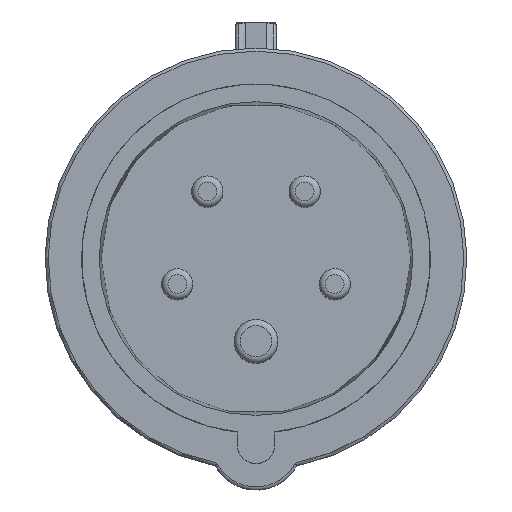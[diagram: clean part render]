
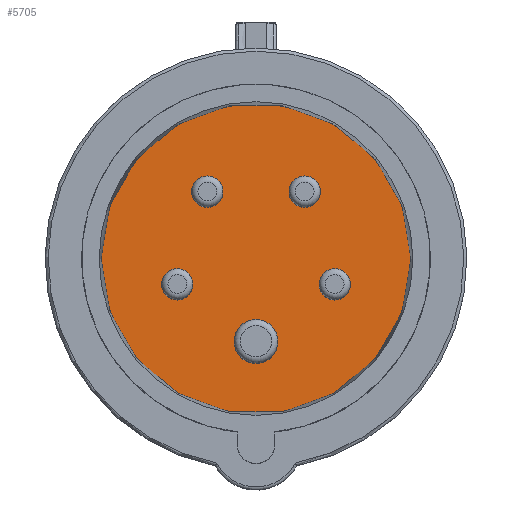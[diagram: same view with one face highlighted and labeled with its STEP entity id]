
A CAD part, top view. The second image highlights one B-rep face of the part: STEP entity #5705.
In plain terms, the highlighted planar face has unit normal (0, 0, 1).
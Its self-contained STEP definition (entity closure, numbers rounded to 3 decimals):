
#1164 = VERTEX_POINT('',#1165);
#1165 = CARTESIAN_POINT('',(-24.801,0.,5.3));
#1171 = EDGE_CURVE('',#1172,#1164,#1174,.T.);
#1172 = VERTEX_POINT('',#1173);
#1173 = CARTESIAN_POINT('',(24.801,0.,5.3));
#1174 = CIRCLE('',#1175,24.801);
#1175 = AXIS2_PLACEMENT_3D('',#1176,#1177,#1178);
#1176 = CARTESIAN_POINT('',(0.,0.,5.3));
#1177 = DIRECTION('',(0.,0.,-1.));
#1178 = DIRECTION('',(1.,0.,0.));
#1202 = EDGE_CURVE('',#1164,#1172,#1203,.T.);
#1203 = CIRCLE('',#1204,24.801);
#1204 = AXIS2_PLACEMENT_3D('',#1205,#1206,#1207);
#1205 = CARTESIAN_POINT('',(0.,0.,5.3));
#1206 = DIRECTION('',(0.,0.,-1.));
#1207 = DIRECTION('',(1.,0.,0.));
#5705 = ADVANCED_FACE('',(#5706),#5710,.T.);
#5706 = FACE_BOUND('',#5707,.T.);
#5707 = EDGE_LOOP('',(#5708,#5709));
#5708 = ORIENTED_EDGE('',*,*,#1171,.F.);
#5709 = ORIENTED_EDGE('',*,*,#1202,.F.);
#5710 = PLANE('',#5711);
#5711 = AXIS2_PLACEMENT_3D('',#5712,#5713,#5714);
#5712 = CARTESIAN_POINT('',(0.,0.,5.3));
#5713 = DIRECTION('',(0.,0.,1.));
#5714 = DIRECTION('',(1.,0.,-0.));
